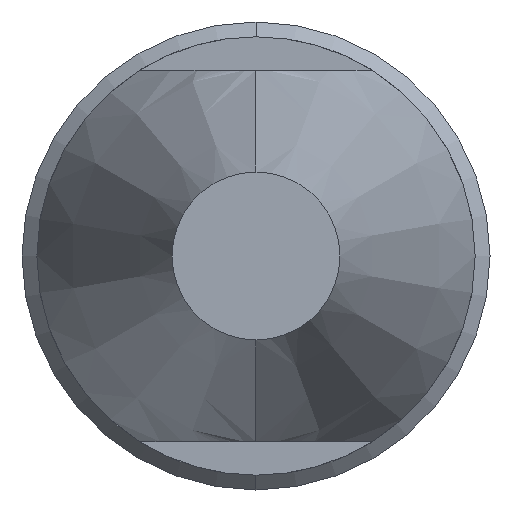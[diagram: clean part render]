
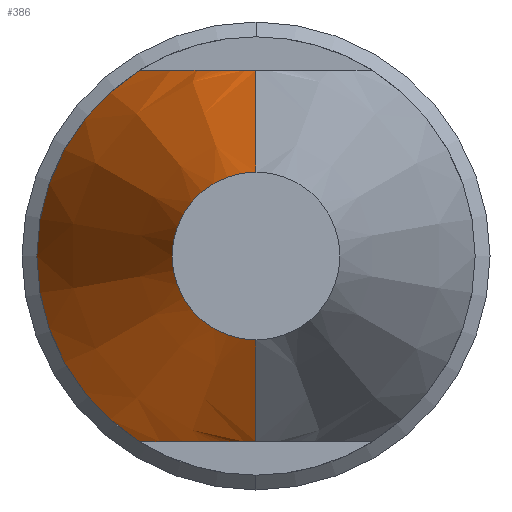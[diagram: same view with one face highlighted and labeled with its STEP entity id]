
A CAD part, left-side view. The second image highlights one B-rep face of the part: STEP entity #386.
In plain terms, the highlighted conical face has half-angle 20 degrees and reference radius 2.26 mm.
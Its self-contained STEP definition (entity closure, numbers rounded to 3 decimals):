
#6 = DIRECTION ( 'NONE',  ( 1., 0., 0. ) ) ;
#8 = DIRECTION ( 'NONE',  ( 0., 0., -1. ) ) ;
#13 = CIRCLE ( 'NONE', #604, 5.9 ) ;
#23 = CARTESIAN_POINT ( 'NONE',  ( 7.527, 0.175, -5. ) ) ;
#25 = CARTESIAN_POINT ( 'NONE',  ( 7.527, 0., -5. ) ) ;
#32 = CARTESIAN_POINT ( 'NONE',  ( 10., 3.132, 5. ) ) ;
#52 = CARTESIAN_POINT ( 'NONE',  ( 7.646, 0.68, -5. ) ) ;
#55 = CARTESIAN_POINT ( 'NONE',  ( 7.715, 0.842, -5. ) ) ;
#59 = VECTOR ( 'NONE', #671, 1000. ) ;
#62 = CARTESIAN_POINT ( 'NONE',  ( 8.177, 1.574, -5. ) ) ;
#63 = LINE ( 'NONE', #776, #171 ) ;
#66 = CARTESIAN_POINT ( 'NONE',  ( 9.717, 2.938, -5. ) ) ;
#78 = VERTEX_POINT ( 'NONE', #352 ) ;
#79 = ORIENTED_EDGE ( 'NONE', *, *, #763, .F. ) ;
#110 = CARTESIAN_POINT ( 'NONE',  ( 0., 0., 2.26 ) ) ;
#128 = B_SPLINE_CURVE_WITH_KNOTS ( 'NONE', 3,
 ( #25, #23, #353, #52, #55, #722, #62, #361, #730, #549, #66, #734 ),
 .UNSPECIFIED., .F., .F.,
 ( 4, 2, 2, 2, 2, 4 ),
 ( 0.012, 0.013, 0.013, 0.014, 0.015, 0.016 ),
 .UNSPECIFIED. ) ;
#130 = DIRECTION ( 'NONE',  ( 0.94, 0., -0.342 ) ) ;
#142 = CARTESIAN_POINT ( 'NONE',  ( 7.959, 1.298, 5. ) ) ;
#143 = VERTEX_POINT ( 'NONE', #32 ) ;
#149 = VERTEX_POINT ( 'NONE', #343 ) ;
#158 = CARTESIAN_POINT ( 'NONE',  ( 7.715, 0.842, 5. ) ) ;
#171 = VECTOR ( 'NONE', #130, 1000. ) ;
#173 = VERTEX_POINT ( 'NONE', #110 ) ;
#208 = CARTESIAN_POINT ( 'NONE',  ( 7.552, 0.346, 5. ) ) ;
#218 = EDGE_CURVE ( 'NONE', #173, #796, #689, .T. ) ;
#251 = FACE_OUTER_BOUND ( 'NONE', #261, .T. ) ;
#258 = ORIENTED_EDGE ( 'NONE', *, *, #572, .F. ) ;
#261 = EDGE_LOOP ( 'NONE', ( #258, #626, #79, #395, #445, #472 ) ) ;
#297 = B_SPLINE_CURVE_WITH_KNOTS ( 'NONE', 3,
 ( #676, #757, #462, #456, #663, #667, #142, #158, #639, #208, #559, #455 ),
 .UNSPECIFIED., .F., .F.,
 ( 4, 2, 2, 2, 2, 4 ),
 ( 0.009, 0.01, 0.011, 0.012, 0.013, 0.013 ),
 .UNSPECIFIED. ) ;
#322 = EDGE_CURVE ( 'NONE', #149, #78, #63, .T. ) ;
#343 = CARTESIAN_POINT ( 'NONE',  ( 0., 0., -2.26 ) ) ;
#352 = CARTESIAN_POINT ( 'NONE',  ( 7.527, 0., -5. ) ) ;
#353 = CARTESIAN_POINT ( 'NONE',  ( 7.552, 0.346, -5. ) ) ;
#361 = CARTESIAN_POINT ( 'NONE',  ( 8.648, 2.074, -5. ) ) ;
#381 = AXIS2_PLACEMENT_3D ( 'NONE', #634, #443, #631 ) ;
#386 = ADVANCED_FACE ( 'NONE', ( #251 ), #669, .T. ) ;
#395 = ORIENTED_EDGE ( 'NONE', *, *, #434, .F. ) ;
#404 = CARTESIAN_POINT ( 'NONE',  ( 0., 0., 2.26 ) ) ;
#413 = AXIS2_PLACEMENT_3D ( 'NONE', #609, #444, #8 ) ;
#422 = VERTEX_POINT ( 'NONE', #587 ) ;
#434 = EDGE_CURVE ( 'NONE', #422, #143, #13, .T. ) ;
#443 = DIRECTION ( 'NONE',  ( -1., 0., 0. ) ) ;
#444 = DIRECTION ( 'NONE',  ( 1., 0., 0. ) ) ;
#445 = ORIENTED_EDGE ( 'NONE', *, *, #513, .F. ) ;
#455 = CARTESIAN_POINT ( 'NONE',  ( 7.527, 0., 5. ) ) ;
#456 = CARTESIAN_POINT ( 'NONE',  ( 8.904, 2.302, 5. ) ) ;
#462 = CARTESIAN_POINT ( 'NONE',  ( 9.437, 2.734, 5. ) ) ;
#472 = ORIENTED_EDGE ( 'NONE', *, *, #322, .F. ) ;
#513 = EDGE_CURVE ( 'NONE', #78, #422, #128, .T. ) ;
#549 = CARTESIAN_POINT ( 'NONE',  ( 9.437, 2.734, -5. ) ) ;
#559 = CARTESIAN_POINT ( 'NONE',  ( 7.527, 0.175, 5. ) ) ;
#572 = EDGE_CURVE ( 'NONE', #173, #149, #577, .T. ) ;
#577 = CIRCLE ( 'NONE', #381, 2.26 ) ;
#587 = CARTESIAN_POINT ( 'NONE',  ( 10., 3.132, -5. ) ) ;
#604 = AXIS2_PLACEMENT_3D ( 'NONE', #716, #6, #731 ) ;
#609 = CARTESIAN_POINT ( 'NONE',  ( 0., 0., 0. ) ) ;
#626 = ORIENTED_EDGE ( 'NONE', *, *, #218, .T. ) ;
#631 = DIRECTION ( 'NONE',  ( 0., 0., -1. ) ) ;
#634 = CARTESIAN_POINT ( 'NONE',  ( 0., 0., 0. ) ) ;
#639 = CARTESIAN_POINT ( 'NONE',  ( 7.646, 0.68, 5. ) ) ;
#663 = CARTESIAN_POINT ( 'NONE',  ( 8.648, 2.074, 5. ) ) ;
#667 = CARTESIAN_POINT ( 'NONE',  ( 8.177, 1.574, 5. ) ) ;
#669 = CONICAL_SURFACE ( 'NONE', #413, 2.26, 0.349 ) ;
#671 = DIRECTION ( 'NONE',  ( 0.94, 0., 0.342 ) ) ;
#676 = CARTESIAN_POINT ( 'NONE',  ( 10., 3.132, 5. ) ) ;
#689 = LINE ( 'NONE', #404, #59 ) ;
#716 = CARTESIAN_POINT ( 'NONE',  ( 10., 0., 0. ) ) ;
#722 = CARTESIAN_POINT ( 'NONE',  ( 7.959, 1.298, -5. ) ) ;
#730 = CARTESIAN_POINT ( 'NONE',  ( 8.904, 2.302, -5. ) ) ;
#731 = DIRECTION ( 'NONE',  ( 0., 0., -1. ) ) ;
#734 = CARTESIAN_POINT ( 'NONE',  ( 10., 3.132, -5. ) ) ;
#757 = CARTESIAN_POINT ( 'NONE',  ( 9.717, 2.938, 5. ) ) ;
#763 = EDGE_CURVE ( 'NONE', #143, #796, #297, .T. ) ;
#775 = CARTESIAN_POINT ( 'NONE',  ( 7.527, 0., 5. ) ) ;
#776 = CARTESIAN_POINT ( 'NONE',  ( 0., 0., -2.26 ) ) ;
#796 = VERTEX_POINT ( 'NONE', #775 ) ;
